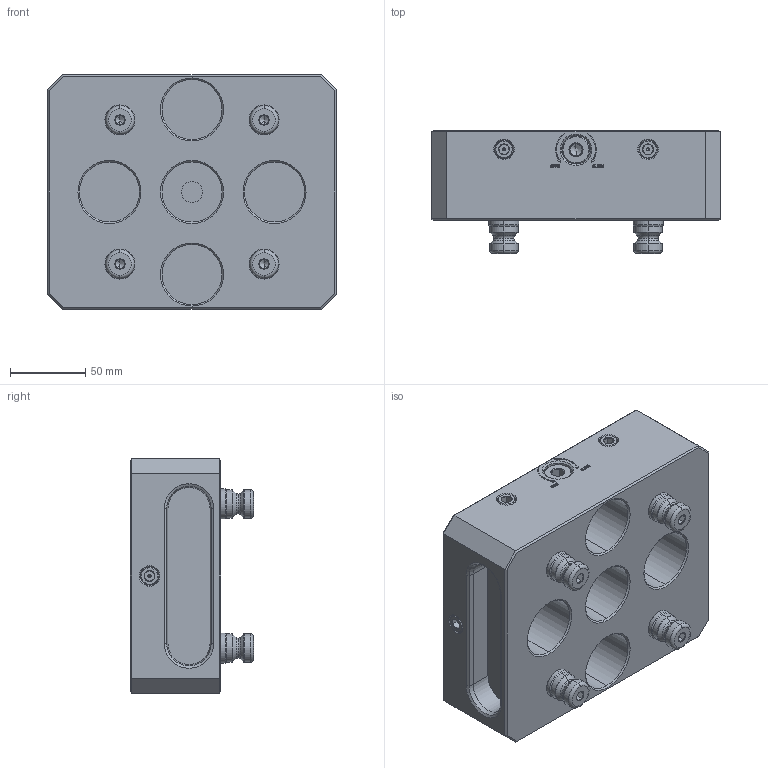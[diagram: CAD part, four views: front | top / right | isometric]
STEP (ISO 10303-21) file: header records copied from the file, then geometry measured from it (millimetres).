
FILE_DESCRIPTION((''),'2;1');
FILE_NAME('TI_WH_96ZPS_RSH60NP001_ASM','2026-06-10T12:56:56',('Admin'),(''),'CREO PARAMETRIC BY PTC INC, 2025010','CREO PARAMETRIC BY PTC INC, 2025010','');
FILE_SCHEMA(('CONFIG_CONTROL_DESIGN'));
Products named in the file (23): B40101-00003_-42500001; F000-24778A-2-SOLID2; F000-24778A-5-SOLID2; F000-24778A-4-SOLID2; B40101-00003_-40760001; F009-0010923B_-1-S0001; F000-24778A-5-SOLID1; F000-24778A-4-SOLID1; B40101-00003_-82320001; B11500-00185_O--870001; B11500-00185_O--900001; F000-24778A-3-SOLID1; B40101-00003_-10460001; F000-24778A-3-SOLID2; _30001; B11500-00185_O--110001; B11500-00185_O--120001; 200; B40101-00003_-13910001; F000-24778A-2-SOLID1; B40101-00003_-14620001; NT-S96P192V3_ASM; TI_WH_96ZPS_RSH60NP001_ASM
Assembly tree (22 placements, depth 3):
  TI_WH_96ZPS_RSH60NP001_ASM
    NT-S96P192V3_ASM
      B40101-00003_-42500001
      F000-24778A-2-SOLID2
      F000-24778A-5-SOLID2
      F000-24778A-4-SOLID2
      B40101-00003_-40760001
      F009-0010923B_-1-S0001
      F000-24778A-5-SOLID1
      F000-24778A-4-SOLID1
      B40101-00003_-82320001
      B11500-00185_O--870001
      B11500-00185_O--900001
      F000-24778A-3-SOLID1
      B40101-00003_-10460001
      F000-24778A-3-SOLID2
      _30001
      B11500-00185_O--110001
      B11500-00185_O--120001
      200
      B40101-00003_-13910001
      F000-24778A-2-SOLID1
      B40101-00003_-14620001
Bounding box: 192 x 82 x 156 mm (x, y, z)
Volume: 1470996 mm3; surface area: 163737.5 mm2
Topology: 21 solids, 21 shells, 1063 faces, 2500 edges, 1510 vertices
Faces by surface type: plane 354, cylinder 312, cone 268, torus 66, extrusion 40, bspline 23
Entity records: 117968 total; most frequent: CARTESIAN_POINT 93931, ORIENTED_EDGE 4908, DIRECTION 4827, EDGE_CURVE 2454, AXIS2_PLACEMENT_3D 1817, VERTEX_POINT 1510, VECTOR 1193, LINE 1153
